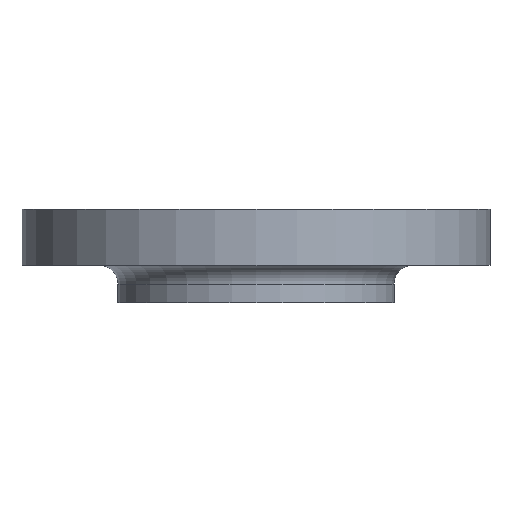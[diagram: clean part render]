
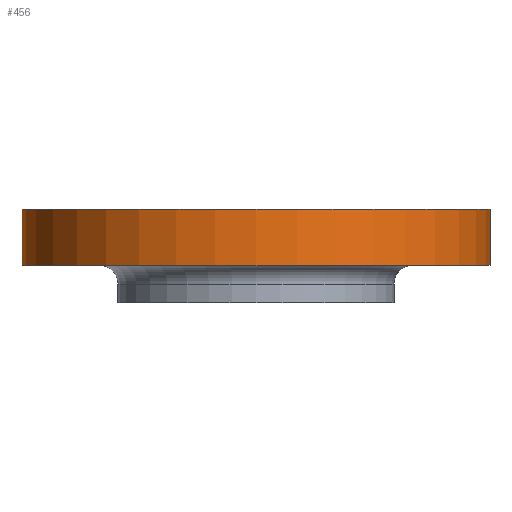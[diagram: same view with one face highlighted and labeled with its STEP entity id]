
A CAD part, front view. The second image highlights one B-rep face of the part: STEP entity #456.
In plain terms, the highlighted cylindrical face has radius 100 mm (diameter 200 mm), a partial arc.
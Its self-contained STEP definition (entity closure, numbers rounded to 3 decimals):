
#3 = AXIS2_PLACEMENT_3D ( 'NONE', #348, #345, #343 ) ;
#94 = DIRECTION ( 'NONE',  ( 1., 0., 0. ) ) ;
#95 = DIRECTION ( 'NONE',  ( 0., 0., 1. ) ) ;
#97 = CARTESIAN_POINT ( 'NONE',  ( 0., 0., 0. ) ) ;
#159 = CARTESIAN_POINT ( 'NONE',  ( -100., 0., -24. ) ) ;
#188 = DIRECTION ( 'NONE',  ( 1., 0., 0. ) ) ;
#190 = DIRECTION ( 'NONE',  ( 0., 0., 1. ) ) ;
#192 = CARTESIAN_POINT ( 'NONE',  ( 0., 0., -24. ) ) ;
#202 = DIRECTION ( 'NONE',  ( 0., 0., 1. ) ) ;
#204 = CARTESIAN_POINT ( 'NONE',  ( 100., 0., -68. ) ) ;
#205 = LINE ( 'NONE', #204, #376 ) ;
#206 = CIRCLE ( 'NONE', #209, 100. ) ;
#209 = AXIS2_PLACEMENT_3D ( 'NONE', #97, #95, #94 ) ;
#224 = CARTESIAN_POINT ( 'NONE',  ( 100., 0., -24. ) ) ;
#227 = CARTESIAN_POINT ( 'NONE',  ( 100., 0., 0. ) ) ;
#232 = CARTESIAN_POINT ( 'NONE',  ( -100., 0., 0. ) ) ;
#343 = DIRECTION ( 'NONE',  ( 1., 0., 0. ) ) ;
#345 = DIRECTION ( 'NONE',  ( 0., 0., 1. ) ) ;
#348 = CARTESIAN_POINT ( 'NONE',  ( 0., 0., -68. ) ) ;
#349 = CYLINDRICAL_SURFACE ( 'NONE', #3, 100. ) ;
#350 = FACE_OUTER_BOUND ( 'NONE', #933, .T. ) ;
#375 = CARTESIAN_POINT ( 'NONE',  ( -100., 0., -68. ) ) ;
#376 = VECTOR ( 'NONE', #202, 1000. ) ;
#420 = EDGE_CURVE ( 'NONE', #726, #512, #426, .T. ) ;
#426 = LINE ( 'NONE', #375, #578 ) ;
#429 = DIRECTION ( 'NONE',  ( 0., 0., 1. ) ) ;
#445 = CIRCLE ( 'NONE', #475, 100. ) ;
#456 = ADVANCED_FACE ( 'NONE', ( #350 ), #349, .T. ) ;
#475 = AXIS2_PLACEMENT_3D ( 'NONE', #192, #190, #188 ) ;
#512 = VERTEX_POINT ( 'NONE', #232 ) ;
#518 = VERTEX_POINT ( 'NONE', #227 ) ;
#523 = VERTEX_POINT ( 'NONE', #224 ) ;
#559 = EDGE_CURVE ( 'NONE', #523, #518, #205, .T. ) ;
#578 = VECTOR ( 'NONE', #429, 1000. ) ;
#657 = EDGE_CURVE ( 'NONE', #726, #523, #445, .T. ) ;
#726 = VERTEX_POINT ( 'NONE', #159 ) ;
#804 = ORIENTED_EDGE ( 'NONE', *, *, #420, .F. ) ;
#805 = ORIENTED_EDGE ( 'NONE', *, *, #657, .T. ) ;
#806 = ORIENTED_EDGE ( 'NONE', *, *, #559, .T. ) ;
#807 = ORIENTED_EDGE ( 'NONE', *, *, #898, .F. ) ;
#898 = EDGE_CURVE ( 'NONE', #512, #518, #206, .T. ) ;
#933 = EDGE_LOOP ( 'NONE', ( #804, #805, #806, #807 ) ) ;
